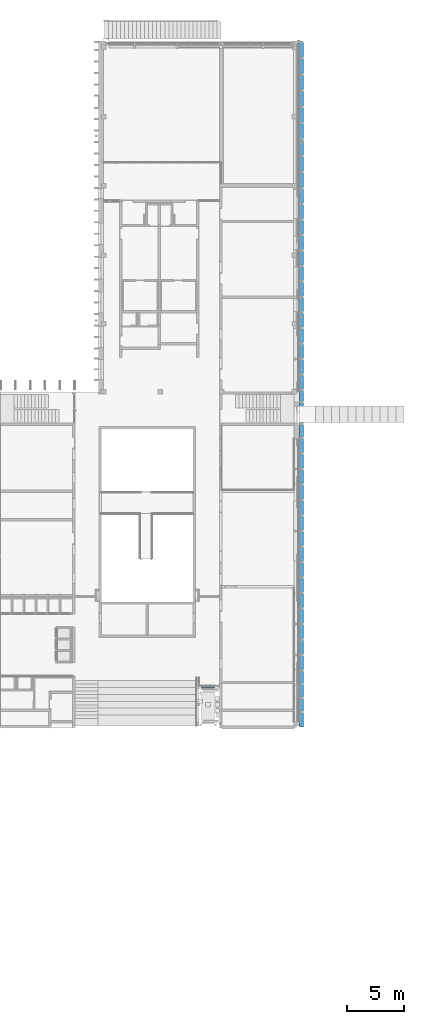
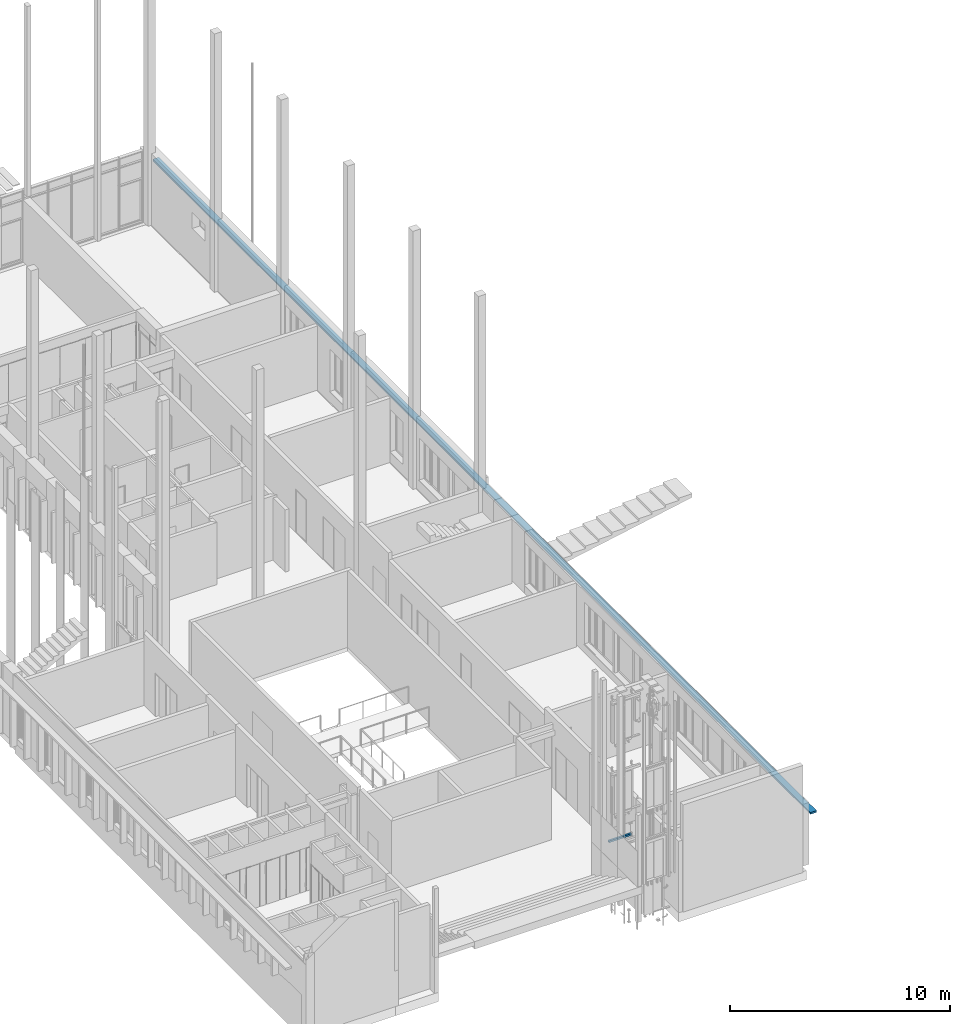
# One storey, part 5 of 89: 2 beams.
"""IFC2X3 building model written with IfcOpenShell, lengths in millimetres."""

from ifc_helpers import new_model, entity, si_unit, converted_unit, derived_unit, money_unit, direction, frame, frame_2d, origin_with_axes, place, context, subcontext, project, spatial, rectangle, extrude, material, type_object, element, save


model = new_model("IFC2X3")

# Units and contexts
model_context = context("Model", 3, precision=0.01, world=origin_with_axes(), true_north=direction((0.0, 1.0)))
body_context = subcontext(model_context, "Body", "Model", "MODEL_VIEW")
ifc_project = project(units=[si_unit("LENGTHUNIT", "METRE", prefix="MILLI"), si_unit("AREAUNIT", "SQUARE_METRE"), si_unit("VOLUMEUNIT", "CUBIC_METRE"), converted_unit("PLANEANGLEUNIT", "DEGREE", entity("IfcPlaneAngleMeasure", 0.0174532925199), si_unit("PLANEANGLEUNIT", "RADIAN"), dimensions=[0, 0, 0, 0, 0, 0, 0]), si_unit("SOLIDANGLEUNIT", "STERADIAN"), money_unit("EUR"), converted_unit("TIMEUNIT", "Year", entity("IfcTimeMeasure", 31556926.0), si_unit("TIMEUNIT", "SECOND"), dimensions=[0, 0, 1, 0, 0, 0, 0]), si_unit("MASSUNIT", "GRAM", prefix="KILO"), si_unit("THERMODYNAMICTEMPERATUREUNIT", "DEGREE_CELSIUS"), si_unit("LUMINOUSINTENSITYUNIT", "LUMEN"), si_unit("ENERGYUNIT", "JOULE", prefix="MEGA"), derived_unit("THERMALCONDUCTANCEUNIT", [(si_unit("POWERUNIT", "WATT"), 1), (si_unit("LENGTHUNIT", "METRE"), -1), (si_unit("THERMODYNAMICTEMPERATUREUNIT", "KELVIN"), -1)]), derived_unit("SPECIFICHEATCAPACITYUNIT", [(si_unit("ENERGYUNIT", "JOULE"), 1), (si_unit("MASSUNIT", "GRAM", prefix="KILO"), -1), (si_unit("THERMODYNAMICTEMPERATUREUNIT", "KELVIN"), -1)]), derived_unit("MASSDENSITYUNIT", [(si_unit("MASSUNIT", "GRAM", prefix="KILO"), 1), (si_unit("VOLUMEUNIT", "CUBIC_METRE"), -1)])], contexts=[model_context])

# Site, building, storey
site_placement = place(None, origin_with_axes())
site = spatial("IfcSite", under=ifc_project, at=site_placement, Name="Puškini 31, Narva", CompositionType="ELEMENT")
building_placement = place(site_placement, origin_with_axes())
building = spatial("IfcBuilding", under=site, at=building_placement, Name="Narva Riigigümnaasium", CompositionType="ELEMENT")
storey_placement = place(building_placement, frame((0.0, 0.0, -3300.0), z_axis=(0.0, 0.0, 1.0), x_axis=(1.0, 0.0, 0.0)))
storey = spatial("IfcBuildingStorey", under=building, at=storey_placement, Name="1.korrus -3.3", CompositionType="ELEMENT", Elevation=-3300.0)

# Beams
ifc_material_1 = material(Name="ET-06_Teras - Konstruktsioon")
beam_type_1 = type_object("IfcBeamType", Name="ET-06_Teras - Konstruktsioon 100 x 100", PredefinedType="BEAM")
beam_1_placement = place(storey_placement, frame((47100.0, 198260.000001, 2380.00001822), z_axis=(0.0, 0.0, 1.0), x_axis=(0.0, 1.0, 0.0)))
element("IfcBeam", 1, at=beam_1_placement, inside=storey, type_object=beam_type_1, material=ifc_material_1, Name="TALA", ObjectType="BEAM", context=body_context, shape_type="SweptSolid", body=[
    extrude(rectangle(XDim=100.0, YDim=100.0, at=frame_2d((-50.0, 50.0), x_axis=(1.0, 0.0))), frame((0.0, 0.0, 0.0), z_axis=(0.0, 1.0, 0.0), x_axis=(0.0, 0.0, 1.0)), (0.0, 0.0, 1.0), 1200.0),
])
ifc_material_2 = material(Name="Puitroov")
beam_type_2 = type_object("IfcBeamType", Name="Puitroov 320 x 100", PredefinedType="BEAM")
beam_2_placement = place(storey_placement, frame((54643.000001, 254568.80584, 3040.0), z_axis=(0.0, 0.0, 1.0), x_axis=(-1.0, 0.0, 0.0)))
element("IfcBeam", 2, at=beam_2_placement, inside=storey, type_object=beam_type_2, material=ifc_material_2, Name="TALA", ObjectType="BEAM", context=body_context, shape_type="SweptSolid", body=[
    extrude(rectangle(XDim=100.0, YDim=320.0, at=frame_2d((-50.0, 0.0), x_axis=(1.0, 0.0))), frame((0.0, 0.0, 0.0), z_axis=(0.0, 1.0, 0.0), x_axis=(0.0, 0.0, 1.0)), (0.0, 0.0, 1.0), 59754.2668713),
])

save(model, "model.ifc")
